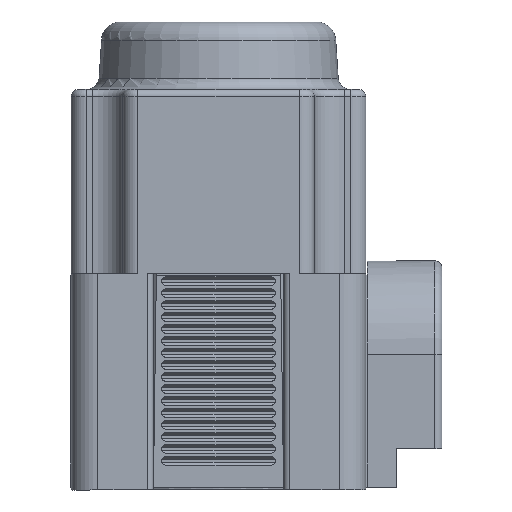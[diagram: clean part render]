
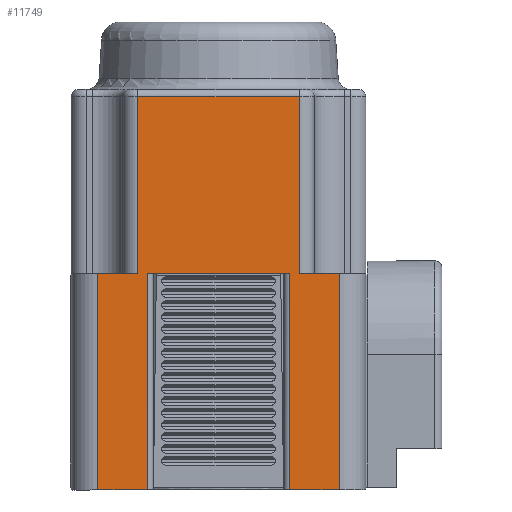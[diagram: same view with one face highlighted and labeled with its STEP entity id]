
A CAD part, left-side view. The second image highlights one B-rep face of the part: STEP entity #11749.
In plain terms, the highlighted planar face has unit normal (-1, 0, 0).
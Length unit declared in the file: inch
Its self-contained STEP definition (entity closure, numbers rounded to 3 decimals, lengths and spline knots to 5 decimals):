
#458=PLANE('',#13117);
#1826=FACE_OUTER_BOUND('',#2532,.T.);
#2532=EDGE_LOOP('',(#10100,#10101,#10102,#10103,#10104,#10105,#10106,#10107,
#10108,#10109,#10110,#10111));
#3265=LINE('',#22440,#4028);
#3278=LINE('',#22510,#4041);
#3401=LINE('',#24098,#4164);
#3419=LINE('',#24158,#4182);
#3420=LINE('',#24162,#4183);
#3423=LINE('',#24181,#4186);
#3436=LINE('',#24250,#4199);
#3437=LINE('',#24254,#4200);
#3438=LINE('',#24255,#4201);
#3439=LINE('',#24257,#4202);
#3440=LINE('',#24259,#4203);
#3441=LINE('',#24260,#4204);
#4028=VECTOR('',#15969,0.3937);
#4041=VECTOR('',#16052,0.3937);
#4164=VECTOR('',#16373,0.3937);
#4182=VECTOR('',#16445,0.3937);
#4183=VECTOR('',#16450,0.3937);
#4186=VECTOR('',#16471,0.3937);
#4199=VECTOR('',#16562,0.3937);
#4200=VECTOR('',#16567,0.3937);
#4201=VECTOR('',#16568,0.3937);
#4202=VECTOR('',#16569,0.3937);
#4203=VECTOR('',#16570,0.3937);
#4204=VECTOR('',#16571,0.3937);
#5077=VERTEX_POINT('',#22432);
#5079=VERTEX_POINT('',#22438);
#5101=VERTEX_POINT('',#22508);
#5237=VERTEX_POINT('',#24095);
#5238=VERTEX_POINT('',#24097);
#5253=VERTEX_POINT('',#24157);
#5254=VERTEX_POINT('',#24161);
#5261=VERTEX_POINT('',#24179);
#5278=VERTEX_POINT('',#24249);
#5279=VERTEX_POINT('',#24253);
#5280=VERTEX_POINT('',#24256);
#5281=VERTEX_POINT('',#24258);
#6587=EDGE_CURVE('',#5079,#5077,#3265,.T.);
#6623=EDGE_CURVE('',#5101,#5079,#3278,.T.);
#6832=EDGE_CURVE('',#5238,#5237,#3401,.T.);
#6862=EDGE_CURVE('',#5253,#5077,#3419,.T.);
#6864=EDGE_CURVE('',#5254,#5253,#3420,.T.);
#6874=EDGE_CURVE('',#5101,#5261,#3423,.T.);
#6908=EDGE_CURVE('',#5278,#5238,#3436,.T.);
#6910=EDGE_CURVE('',#5279,#5261,#3437,.T.);
#6911=EDGE_CURVE('',#5278,#5279,#3438,.T.);
#6912=EDGE_CURVE('',#5280,#5237,#3439,.T.);
#6913=EDGE_CURVE('',#5280,#5281,#3440,.T.);
#6914=EDGE_CURVE('',#5281,#5254,#3441,.T.);
#10100=ORIENTED_EDGE('',*,*,#6587,.F.);
#10101=ORIENTED_EDGE('',*,*,#6623,.F.);
#10102=ORIENTED_EDGE('',*,*,#6874,.T.);
#10103=ORIENTED_EDGE('',*,*,#6910,.F.);
#10104=ORIENTED_EDGE('',*,*,#6911,.F.);
#10105=ORIENTED_EDGE('',*,*,#6908,.T.);
#10106=ORIENTED_EDGE('',*,*,#6832,.T.);
#10107=ORIENTED_EDGE('',*,*,#6912,.F.);
#10108=ORIENTED_EDGE('',*,*,#6913,.T.);
#10109=ORIENTED_EDGE('',*,*,#6914,.T.);
#10110=ORIENTED_EDGE('',*,*,#6864,.T.);
#10111=ORIENTED_EDGE('',*,*,#6862,.T.);
#11749=ADVANCED_FACE('',(#1826),#458,.T.);
#13117=AXIS2_PLACEMENT_3D('',#24252,#16565,#16566);
#15969=DIRECTION('',(0.,-1.,0.));
#16052=DIRECTION('',(0.,0.,1.));
#16373=DIRECTION('',(0.,-1.,0.));
#16445=DIRECTION('',(0.,0.,1.));
#16450=DIRECTION('',(0.,1.,0.));
#16471=DIRECTION('',(0.,1.,0.));
#16562=DIRECTION('',(0.,0.,1.));
#16565=DIRECTION('center_axis',(-1.,0.,0.));
#16566=DIRECTION('ref_axis',(0.,0.,1.));
#16567=DIRECTION('',(0.,0.,1.));
#16568=DIRECTION('',(0.,1.,0.));
#16569=DIRECTION('',(0.,0.,1.));
#16570=DIRECTION('',(0.,-1.,0.));
#16571=DIRECTION('',(0.,0.,1.));
#22432=CARTESIAN_POINT('',(-0.42499,-0.53282,0.65855));
#22438=CARTESIAN_POINT('',(-0.42499,0.13518,0.65855));
#22440=CARTESIAN_POINT('',(-0.42499,0.13518,0.65855));
#22508=CARTESIAN_POINT('',(-0.42499,0.13518,-0.07345));
#22510=CARTESIAN_POINT('',(-0.42499,0.13518,-0.07345));
#24095=CARTESIAN_POINT('',(-0.42499,-0.49282,-0.07345));
#24097=CARTESIAN_POINT('',(-0.42499,0.09518,-0.07345));
#24098=CARTESIAN_POINT('',(-0.42499,0.09518,-0.07345));
#24157=CARTESIAN_POINT('',(-0.42499,-0.53282,-0.07345));
#24158=CARTESIAN_POINT('',(-0.42499,-0.53282,-0.07345));
#24161=CARTESIAN_POINT('',(-0.42499,-0.69782,-0.07345));
#24162=CARTESIAN_POINT('',(-0.42499,-0.69782,-0.07345));
#24179=CARTESIAN_POINT('',(-0.42499,0.30018,-0.07345));
#24181=CARTESIAN_POINT('',(-0.42499,0.13518,-0.07345));
#24249=CARTESIAN_POINT('',(-0.42499,0.09518,-0.96745));
#24250=CARTESIAN_POINT('',(-0.42499,0.09518,-0.96745));
#24252=CARTESIAN_POINT('Origin',(-0.42499,-0.69822,
-0.15445));
#24253=CARTESIAN_POINT('',(-0.42499,0.30018,-0.96745));
#24254=CARTESIAN_POINT('',(-0.42499,0.30018,-0.96745));
#24255=CARTESIAN_POINT('',(-0.42499,0.09518,-0.96745));
#24256=CARTESIAN_POINT('',(-0.42499,-0.49282,-0.96745));
#24257=CARTESIAN_POINT('',(-0.42499,-0.49282,-0.96745));
#24258=CARTESIAN_POINT('',(-0.42499,-0.69782,-0.96745));
#24259=CARTESIAN_POINT('',(-0.42499,-0.49282,-0.96745));
#24260=CARTESIAN_POINT('',(-0.42499,-0.69782,-0.96745));
